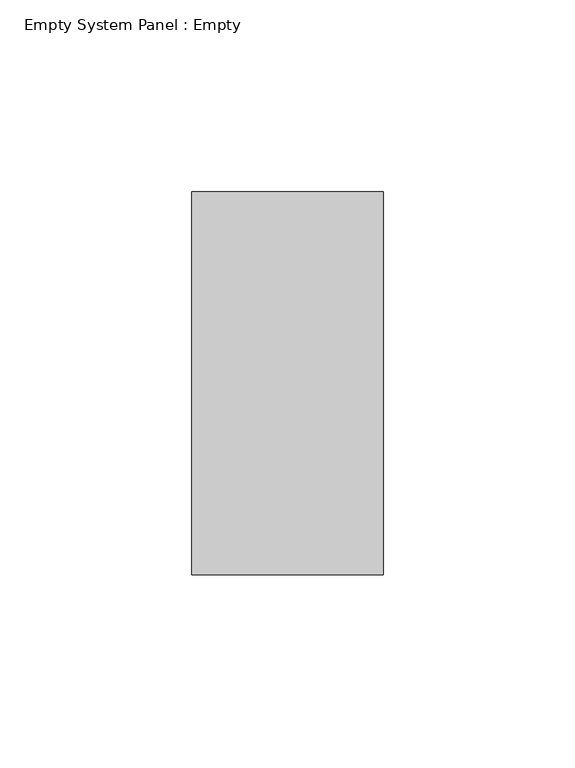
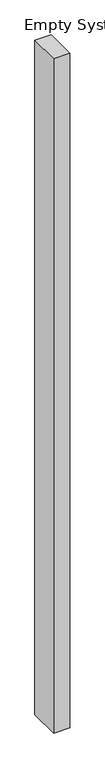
"""IFC4 building model written with IfcOpenShell, lengths in millimetres: plate geometry, Empty System Panel : Empty."""

import ifcopenshell
import ifcopenshell.guid

model = None  # the IFC model being written
_history = None  # IfcOwnerHistory: only IFC2X3 demands one
_inside = {}  # id of a spatial element -> (the spatial element, [elements in it])
_under = {}  # id of a project, library or spatial element -> (it, [spatial elements below it])
_declared = {}  # id of a project -> (the project, [libraries it declares])
_typed = {}  # id of a type object -> (the type object, [elements of that type])
_made_of = {}  # id of a material, layer set ... -> (it, [elements and type objects made of it])


def new_model(schema):
    """Start an empty IFC model of exactly this schema.

    Asked for "IFC4X3", IfcOpenShell would pick the latest addendum, in which some entities
    have other attributes; the version numbers below select the first issue.
    IFC2X3 requires an IfcOwnerHistory on every rooted entity: one is made here for all.
    """
    global model, _history
    if schema == "IFC4X3":
        model = ifcopenshell.file(schema_version=(4, 3, 0, 0))
    else:
        model = ifcopenshell.file(schema=schema)
    _inside.clear()
    _under.clear()
    _declared.clear()
    _typed.clear()
    _made_of.clear()
    _history = None
    if model.schema == "IFC2X3":
        org = make("IfcOrganization", Name="unknown")
        user = make(
            "IfcPersonAndOrganization",
            ThePerson=make("IfcPerson", FamilyName="unknown"),
            TheOrganization=org,
        )
        app = make(
            "IfcApplication",
            ApplicationDeveloper=org,
            Version="unknown",
            ApplicationFullName="unknown",
            ApplicationIdentifier="unknown",
        )
        _history = make(
            "IfcOwnerHistory",
            OwningUser=user,
            OwningApplication=app,
            ChangeAction="ADDED",
            CreationDate=0,
        )
    return model


def make(cls, **values):
    """One entity of the class cls with the attributes given. An attribute that is None is left unset."""
    return model.create_entity(
        cls, **{name: value for name, value in values.items() if value is not None}
    )


def rooted(cls, **values):
    """An entity with a GlobalId (a new one), such as an element, a storey or a relation."""
    return make(cls, GlobalId=ifcopenshell.guid.new(), OwnerHistory=_history, **values)


def si_unit(unit_type, name, prefix=None):
    """IfcSIUnit, for example si_unit("LENGTHUNIT", "METRE", prefix="MILLI")."""
    return make("IfcSIUnit", UnitType=unit_type, Prefix=prefix, Name=name)


def assignment(units):
    """IfcUnitAssignment: the units of a project."""
    return None if units is None else make("IfcUnitAssignment", Units=units)


def point(xyz):
    """IfcCartesianPoint."""
    return None if xyz is None else make("IfcCartesianPoint", Coordinates=xyz)


def direction(xyz):
    """IfcDirection."""
    return None if xyz is None else make("IfcDirection", DirectionRatios=xyz)


def frame(location, z_axis=None, x_axis=None):
    """IfcAxis2Placement3D, a coordinate frame: its origin and axes. An axis left out is left unset."""
    return make(
        "IfcAxis2Placement3D",
        Location=point(location),
        Axis=direction(z_axis),
        RefDirection=direction(x_axis),
    )


def origin():
    """The frame at (0, 0, 0) with its axes left unset."""
    return frame((0.0, 0.0, 0.0))


def origin_with_axes():
    """The frame at (0, 0, 0) with the z axis (0, 0, 1) and the x axis (1, 0, 0) written out."""
    return frame((0.0, 0.0, 0.0), z_axis=(0.0, 0.0, 1.0), x_axis=(1.0, 0.0, 0.0))


def place(relative_to, where):
    """IfcLocalPlacement: puts the frame where relative to a parent placement (None: the world)."""
    return make(
        "IfcLocalPlacement", PlacementRelTo=relative_to, RelativePlacement=where
    )


def context(
    kind, dimensions, precision=None, world=None, true_north=None, identifier=None
):
    """IfcGeometricRepresentationContext, for example the 3D "Model" context."""
    return make(
        "IfcGeometricRepresentationContext",
        ContextIdentifier=identifier,
        ContextType=kind,
        CoordinateSpaceDimension=dimensions,
        Precision=precision,
        WorldCoordinateSystem=world,
        TrueNorth=true_north,
    )


def project(units=None, contexts=None):
    """IfcProject with its units and contexts."""
    return rooted(
        "IfcProject",
        Name="project",
        RepresentationContexts=contexts,
        UnitsInContext=assignment(units),
    )


def spatial(cls, under=None, at=None, **own):
    """A site, building, storey or space (cls), placed at a placement, below another one or the project."""
    s = rooted(cls, ObjectPlacement=at, **own)
    if under is not None:
        _under.setdefault(under.id(), (under, []))[1].append(s)
    return s


def polyline(points):
    """IfcPolyline through the points."""
    return make("IfcPolyline", Points=[point(p) for p in points])


def outline(outer, holes=None, kind="AREA"):
    """IfcArbitraryClosedProfileDef: a profile drawn as a closed curve; with holes, ...WithVoids."""
    if holes is None:
        return make("IfcArbitraryClosedProfileDef", ProfileType=kind, OuterCurve=outer)
    return make(
        "IfcArbitraryProfileDefWithVoids",
        ProfileType=kind,
        OuterCurve=outer,
        InnerCurves=holes,
    )


def extrude(swept, where, along, depth):
    """IfcExtrudedAreaSolid: the profile swept, set in the frame where, extruded along a direction by depth."""
    return make(
        "IfcExtrudedAreaSolid",
        SweptArea=swept,
        Position=where,
        ExtrudedDirection=direction(along),
        Depth=depth,
    )


def shape(context_of_items, identifier, shape_type, items):
    """IfcShapeRepresentation: the items that make up one representation, for example the "Body"."""
    return make(
        "IfcShapeRepresentation",
        ContextOfItems=context_of_items,
        RepresentationIdentifier=identifier,
        RepresentationType=shape_type,
        Items=items,
    )


def source(mapping_origin, context_of_items, identifier, shape_type, items):
    """IfcRepresentationMap: a shape defined once, which mapped items show again and again."""
    return make(
        "IfcRepresentationMap",
        MappingOrigin=mapping_origin,
        MappedRepresentation=shape(context_of_items, identifier, shape_type, items),
    )


def transform(
    local_origin,
    x_axis=None,
    y_axis=None,
    z_axis=None,
    scale=None,
    scale2=None,
    scale3=None,
    uniform=True,
):
    """IfcCartesianTransformationOperator3D, or its non-uniform kind. x_axis, y_axis, z_axis: its Axis1, 2, 3."""
    if uniform:
        return make(
            "IfcCartesianTransformationOperator3D",
            Axis1=direction(x_axis),
            Axis2=direction(y_axis),
            LocalOrigin=point(local_origin),
            Scale=scale,
            Axis3=direction(z_axis),
        )
    return make(
        "IfcCartesianTransformationOperator3DnonUniform",
        Axis1=direction(x_axis),
        Axis2=direction(y_axis),
        LocalOrigin=point(local_origin),
        Scale=scale,
        Axis3=direction(z_axis),
        Scale2=scale2,
        Scale3=scale3,
    )


def mapped(mapping_source, mapping_target):
    """IfcMappedItem: shows the shape of a source again, moved by a transform."""
    return make(
        "IfcMappedItem", MappingSource=mapping_source, MappingTarget=mapping_target
    )


def made_of(thing, what):
    """Note that an element or type object is made of a material, layer set ...; save() writes the relation."""
    if what is not None:
        _made_of.setdefault(what.id(), (what, []))[1].append(thing)
    return thing


def element(
    cls,
    number,
    at=None,
    inside=None,
    cuts=None,
    type_object=None,
    material=None,
    context=None,
    identifier="Body",
    shape_type=None,
    held_by="IfcProductDefinitionShape",
    body=None,
    shapes=None,
    **own,
):
    """One element of the class cls, such as IfcWall. Its Tag is "e" and its number.

    at: its placement. inside: the storey or other place that contains it. cuts: it is an
    opening in that element (IfcRelVoidsElement). A single representation is given by context,
    identifier, shape_type and body (its items); several are given by shapes. held_by: the class
    of the entity that holds the representations. save() writes the other relations.
    """
    e = rooted(cls, Tag="e%d" % number, ObjectPlacement=at, **own)
    if body is not None:
        shapes = [shape(context, identifier, shape_type, body)]
    if shapes is not None:
        e.Representation = make(held_by, Representations=shapes)
    if inside is not None:
        _inside.setdefault(inside.id(), (inside, []))[1].append(e)
    if cuts is not None:
        rooted(
            "IfcRelVoidsElement", RelatingBuildingElement=cuts, RelatedOpeningElement=e
        )
    if type_object is not None:
        _typed.setdefault(type_object.id(), (type_object, []))[1].append(e)
    return made_of(e, material)


def aggregate(whole, parts):
    """IfcRelAggregates: a whole, such as a stair, and the parts it consists of."""
    return rooted("IfcRelAggregates", RelatingObject=whole, RelatedObjects=parts)


def save(model, path):
    """Write the relations noted so far, then the file.

    IfcRelAggregates (storeys below a building ...), IfcRelContainedInSpatialStructure (elements
    in a storey), IfcRelDefinesByType, IfcRelAssociatesMaterial and IfcRelDeclares: one each for
    every whole, place, type object, material and project.
    """
    for whole, parts in _under.values():
        aggregate(whole, parts)
    for where, things in _inside.values():
        rooted(
            "IfcRelContainedInSpatialStructure",
            RelatedElements=things,
            RelatingStructure=where,
        )
    for kind, things in _typed.values():
        rooted("IfcRelDefinesByType", RelatedObjects=things, RelatingType=kind)
    for what, things in _made_of.values():
        rooted("IfcRelAssociatesMaterial", RelatedObjects=things, RelatingMaterial=what)
    for by, libraries in _declared.values():
        rooted("IfcRelDeclares", RelatingContext=by, RelatedDefinitions=libraries)
    model.write(path)


def empty_system_panel_empty_d53b2e3b(model_context):
    return source(origin(), model_context, "Body", "SweptSolid", [
        extrude(outline(polyline([(25.0, -100.0), (-25.0, -100.0), (-25.0, 0.0), (25.0, 0.0), (25.0, -100.0)])), origin_with_axes(), (0.0, 0.0, 1.0), 2200.0),
    ])


if __name__ == "__main__":
    model = new_model("IFC4")
    model_context = context("Model", 3, world=origin())
    ifc_project = project(units=[si_unit("LENGTHUNIT", "METRE", prefix="MILLI")], contexts=[model_context])
    site = spatial("IfcSite", under=ifc_project)
    building = spatial("IfcBuilding", under=site)
    placement = place(None, origin())
    empty_system_panel_empty_shape = empty_system_panel_empty_d53b2e3b(model_context)
    element("IfcPlate", 1, ObjectType="Empty System Panel : Empty", at=placement, inside=building, context=model_context, shape_type="MappedRepresentation", body=[
        mapped(empty_system_panel_empty_shape, transform((0.0, 0.0, 0.0), x_axis=(1.0, 0.0, 0.0), y_axis=(0.0, 1.0, 0.0), z_axis=(0.0, 0.0, 1.0))),
    ])
    save(model, "model.ifc")
